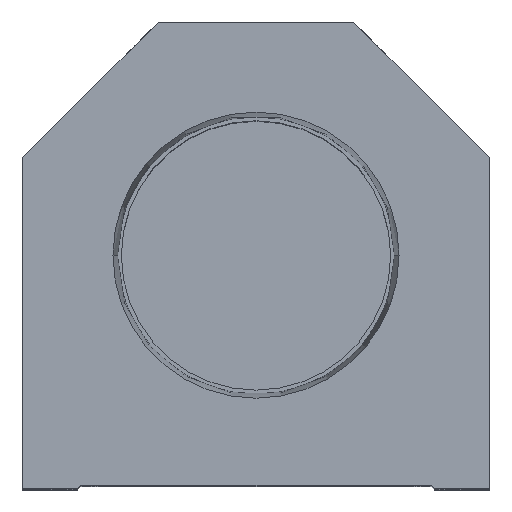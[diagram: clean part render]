
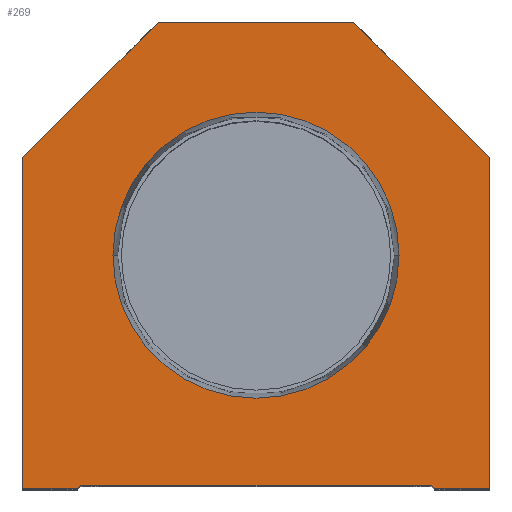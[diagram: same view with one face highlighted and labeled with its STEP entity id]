
A CAD part, top view. The second image highlights one B-rep face of the part: STEP entity #269.
In plain terms, the highlighted planar face has unit normal (0, 0, 1).
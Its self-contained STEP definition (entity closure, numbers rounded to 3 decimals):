
#269 = ADVANCED_FACE ( 'NONE', ( #10028, #16124 ), #7056, .T. ) ;
#490 = CARTESIAN_POINT ( 'NONE',  ( 0., 38.1, 0. ) ) ;
#569 = VERTEX_POINT ( 'NONE', #10702 ) ;
#662 = VECTOR ( 'NONE', #8687, 1000. ) ;
#964 = CARTESIAN_POINT ( 'NONE',  ( 16., 76.2, 0. ) ) ;
#1071 = LINE ( 'NONE', #964, #7288 ) ;
#1157 = CARTESIAN_POINT ( 'NONE',  ( -38.1, 54.1, 0. ) ) ;
#1588 = DIRECTION ( 'NONE',  ( 0., -1., 0. ) ) ;
#1671 = VECTOR ( 'NONE', #1915, 1000. ) ;
#1696 = CARTESIAN_POINT ( 'NONE',  ( -14.55, 14.55, 0. ) ) ;
#1915 = DIRECTION ( 'NONE',  ( 1., 0., 0. ) ) ;
#2596 = VERTEX_POINT ( 'NONE', #11473 ) ;
#2707 = EDGE_CURVE ( 'NONE', #6794, #5511, #6005, .T. ) ;
#2721 = CARTESIAN_POINT ( 'NONE',  ( 38.1, 0., 0. ) ) ;
#2726 = ORIENTED_EDGE ( 'NONE', *, *, #5932, .T. ) ;
#2773 = EDGE_LOOP ( 'NONE', ( #17219, #6551 ) ) ;
#3001 = LINE ( 'NONE', #6307, #11045 ) ;
#3222 = VECTOR ( 'NONE', #16285, 1000. ) ;
#3651 = EDGE_CURVE ( 'NONE', #10348, #2596, #3001, .T. ) ;
#3853 = VECTOR ( 'NONE', #7097, 1000. ) ;
#4058 = EDGE_CURVE ( 'NONE', #6557, #5456, #1071, .T. ) ;
#4289 = ORIENTED_EDGE ( 'NONE', *, *, #5926, .T. ) ;
#4689 = DIRECTION ( 'NONE',  ( 1., 0., 0. ) ) ;
#4735 = CARTESIAN_POINT ( 'NONE',  ( -28.6, 0.5, 0. ) ) ;
#4926 = CARTESIAN_POINT ( 'NONE',  ( -28.6, 0., 0. ) ) ;
#5324 = LINE ( 'NONE', #5417, #13728 ) ;
#5417 = CARTESIAN_POINT ( 'NONE',  ( 14.55, 14.55, 0. ) ) ;
#5456 = VERTEX_POINT ( 'NONE', #17988 ) ;
#5511 = VERTEX_POINT ( 'NONE', #4735 ) ;
#5594 = ORIENTED_EDGE ( 'NONE', *, *, #11402, .T. ) ;
#5806 = EDGE_CURVE ( 'NONE', #8800, #7941, #6080, .T. ) ;
#5926 = EDGE_CURVE ( 'NONE', #18031, #13258, #6990, .T. ) ;
#5932 = EDGE_CURVE ( 'NONE', #17362, #18031, #19216, .T. ) ;
#6005 = LINE ( 'NONE', #1696, #10951 ) ;
#6053 = DIRECTION ( 'NONE',  ( -0.707, -0.707, 0. ) ) ;
#6080 = CIRCLE ( 'NONE', #10198, 23.374 ) ;
#6153 = EDGE_CURVE ( 'NONE', #13258, #6557, #16387, .T. ) ;
#6307 = CARTESIAN_POINT ( 'NONE',  ( -38.1, 0., 0. ) ) ;
#6551 = ORIENTED_EDGE ( 'NONE', *, *, #5806, .F. ) ;
#6557 = VERTEX_POINT ( 'NONE', #12438 ) ;
#6794 = VERTEX_POINT ( 'NONE', #12796 ) ;
#6961 = ORIENTED_EDGE ( 'NONE', *, *, #9381, .T. ) ;
#6990 = LINE ( 'NONE', #11567, #3853 ) ;
#7056 = PLANE ( 'NONE',  #14316 ) ;
#7097 = DIRECTION ( 'NONE',  ( 0., 1., 0. ) ) ;
#7136 = EDGE_CURVE ( 'NONE', #569, #17362, #5324, .T. ) ;
#7258 = DIRECTION ( 'NONE',  ( 1., 0., 0. ) ) ;
#7288 = VECTOR ( 'NONE', #16222, 1000. ) ;
#7909 = DIRECTION ( 'NONE',  ( 0., 0., 1. ) ) ;
#7941 = VERTEX_POINT ( 'NONE', #14595 ) ;
#8481 = CIRCLE ( 'NONE', #19570, 23.374 ) ;
#8687 = DIRECTION ( 'NONE',  ( 1., 0., 0. ) ) ;
#8800 = VERTEX_POINT ( 'NONE', #12431 ) ;
#8851 = CARTESIAN_POINT ( 'NONE',  ( 38.1, 54.1, 0. ) ) ;
#9113 = ORIENTED_EDGE ( 'NONE', *, *, #6153, .T. ) ;
#9369 = DIRECTION ( 'NONE',  ( 0., 0., 1. ) ) ;
#9381 = EDGE_CURVE ( 'NONE', #5511, #569, #10910, .T. ) ;
#9577 = VECTOR ( 'NONE', #6053, 1000. ) ;
#10028 = FACE_BOUND ( 'NONE', #2773, .T. ) ;
#10198 = AXIS2_PLACEMENT_3D ( 'NONE', #12365, #7909, #18435 ) ;
#10348 = VERTEX_POINT ( 'NONE', #16309 ) ;
#10702 = CARTESIAN_POINT ( 'NONE',  ( 28.6, 0.5, 0. ) ) ;
#10910 = LINE ( 'NONE', #16894, #11823 ) ;
#10951 = VECTOR ( 'NONE', #18128, 1000. ) ;
#11045 = VECTOR ( 'NONE', #1588, 1000. ) ;
#11402 = EDGE_CURVE ( 'NONE', #2596, #6794, #15594, .T. ) ;
#11473 = CARTESIAN_POINT ( 'NONE',  ( -38.1, 0., 0. ) ) ;
#11567 = CARTESIAN_POINT ( 'NONE',  ( 38.1, 0., 0. ) ) ;
#11623 = DIRECTION ( 'NONE',  ( 0., 0., 1. ) ) ;
#11627 = ORIENTED_EDGE ( 'NONE', *, *, #3651, .T. ) ;
#11823 = VECTOR ( 'NONE', #12299, 1000. ) ;
#12071 = ORIENTED_EDGE ( 'NONE', *, *, #18439, .T. ) ;
#12299 = DIRECTION ( 'NONE',  ( 1., 0., 0. ) ) ;
#12365 = CARTESIAN_POINT ( 'NONE',  ( 0., 38.1, 0. ) ) ;
#12431 = CARTESIAN_POINT ( 'NONE',  ( -23.374, 38.1, 0. ) ) ;
#12438 = CARTESIAN_POINT ( 'NONE',  ( 16., 76.2, 0. ) ) ;
#12796 = CARTESIAN_POINT ( 'NONE',  ( -29.1, 0., 0. ) ) ;
#13221 = CARTESIAN_POINT ( 'NONE',  ( 0., 0., 0. ) ) ;
#13258 = VERTEX_POINT ( 'NONE', #8851 ) ;
#13489 = ORIENTED_EDGE ( 'NONE', *, *, #4058, .T. ) ;
#13611 = LINE ( 'NONE', #1157, #9577 ) ;
#13728 = VECTOR ( 'NONE', #19236, 1000. ) ;
#13864 = EDGE_LOOP ( 'NONE', ( #5594, #19208, #6961, #17438, #2726, #4289, #9113, #13489, #12071, #11627 ) ) ;
#14316 = AXIS2_PLACEMENT_3D ( 'NONE', #13221, #11623, #7258 ) ;
#14595 = CARTESIAN_POINT ( 'NONE',  ( 23.374, 38.1, 0. ) ) ;
#14600 = CARTESIAN_POINT ( 'NONE',  ( 38.1, 54.1, 0. ) ) ;
#15594 = LINE ( 'NONE', #4926, #1671 ) ;
#15902 = CARTESIAN_POINT ( 'NONE',  ( 29.1, 0., 0. ) ) ;
#16124 = FACE_OUTER_BOUND ( 'NONE', #13864, .T. ) ;
#16222 = DIRECTION ( 'NONE',  ( -1., 0., 0. ) ) ;
#16285 = DIRECTION ( 'NONE',  ( -0.707, 0.707, 0. ) ) ;
#16309 = CARTESIAN_POINT ( 'NONE',  ( -38.1, 54.1, 0. ) ) ;
#16354 = CARTESIAN_POINT ( 'NONE',  ( 28.6, 0., 0. ) ) ;
#16387 = LINE ( 'NONE', #14600, #3222 ) ;
#16894 = CARTESIAN_POINT ( 'NONE',  ( -28.6, 0.5, 0. ) ) ;
#17219 = ORIENTED_EDGE ( 'NONE', *, *, #17547, .F. ) ;
#17362 = VERTEX_POINT ( 'NONE', #15902 ) ;
#17438 = ORIENTED_EDGE ( 'NONE', *, *, #7136, .T. ) ;
#17547 = EDGE_CURVE ( 'NONE', #7941, #8800, #8481, .T. ) ;
#17988 = CARTESIAN_POINT ( 'NONE',  ( -16., 76.2, 0. ) ) ;
#18031 = VERTEX_POINT ( 'NONE', #2721 ) ;
#18128 = DIRECTION ( 'NONE',  ( 0.707, 0.707, 0. ) ) ;
#18435 = DIRECTION ( 'NONE',  ( 1., 0., 0. ) ) ;
#18439 = EDGE_CURVE ( 'NONE', #5456, #10348, #13611, .T. ) ;
#19208 = ORIENTED_EDGE ( 'NONE', *, *, #2707, .T. ) ;
#19216 = LINE ( 'NONE', #16354, #662 ) ;
#19236 = DIRECTION ( 'NONE',  ( 0.707, -0.707, 0. ) ) ;
#19570 = AXIS2_PLACEMENT_3D ( 'NONE', #490, #9369, #4689 ) ;
